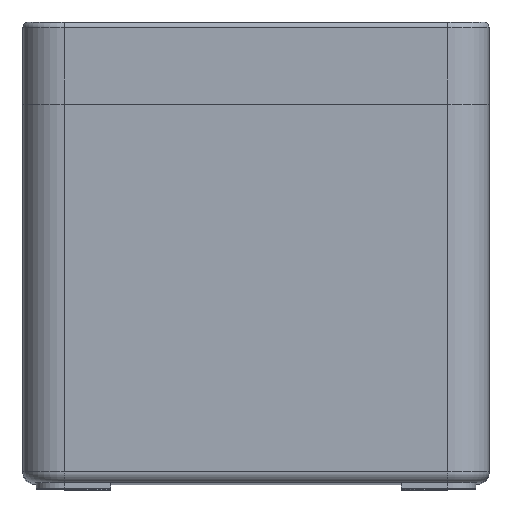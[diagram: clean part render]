
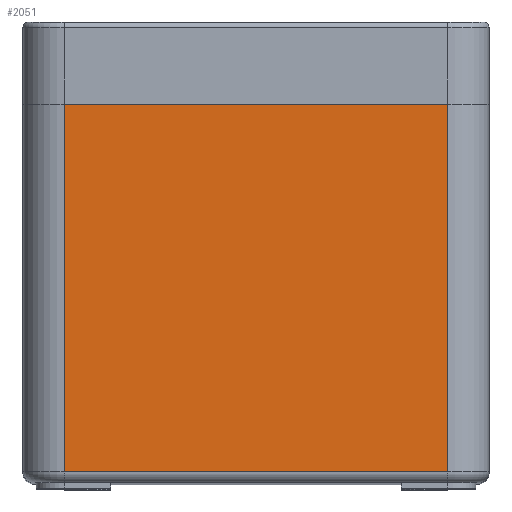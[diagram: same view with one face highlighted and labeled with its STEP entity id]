
A CAD part, top view. The second image highlights one B-rep face of the part: STEP entity #2051.
In plain terms, the highlighted planar face has unit normal (0, 0, 1).
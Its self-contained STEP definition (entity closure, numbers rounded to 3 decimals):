
#180 = DIRECTION ( 'NONE',  ( 0., 1., 0. ) ) ;
#581 = CARTESIAN_POINT ( 'NONE',  ( -35., 0., 100. ) ) ;
#1354 = CARTESIAN_POINT ( 'NONE',  ( -35., -69., 100. ) ) ;
#1649 = VECTOR ( 'NONE', #13886, 1000. ) ;
#2051 = ADVANCED_FACE ( 'NONE', ( #9320 ), #19506, .T. ) ;
#3469 = DIRECTION ( 'NONE',  ( 1., 0., 0. ) ) ;
#3753 = LINE ( 'NONE', #24683, #9367 ) ;
#4338 = CARTESIAN_POINT ( 'NONE',  ( -35., -69., 100. ) ) ;
#4372 = CARTESIAN_POINT ( 'NONE',  ( 35., -67., 100. ) ) ;
#4527 = CARTESIAN_POINT ( 'NONE',  ( 35., -67., 100. ) ) ;
#4547 = CARTESIAN_POINT ( 'NONE',  ( -35., -67., 100. ) ) ;
#5691 = EDGE_CURVE ( 'NONE', #12955, #16828, #17859, .T. ) ;
#6980 = EDGE_LOOP ( 'NONE', ( #22038, #7455, #14712, #20518 ) ) ;
#7455 = ORIENTED_EDGE ( 'NONE', *, *, #7678, .T. ) ;
#7678 = EDGE_CURVE ( 'NONE', #17538, #9936, #8424, .T. ) ;
#8160 = EDGE_CURVE ( 'NONE', #17538, #12955, #20426, .T. ) ;
#8424 = LINE ( 'NONE', #4372, #22937 ) ;
#9320 = FACE_OUTER_BOUND ( 'NONE', #6980, .T. ) ;
#9367 = VECTOR ( 'NONE', #14922, 1000. ) ;
#9369 = VECTOR ( 'NONE', #180, 1000. ) ;
#9936 = VERTEX_POINT ( 'NONE', #4527 ) ;
#9997 = AXIS2_PLACEMENT_3D ( 'NONE', #1354, #15652, #3469 ) ;
#11904 = CARTESIAN_POINT ( 'NONE',  ( -35., 0., 100. ) ) ;
#12955 = VERTEX_POINT ( 'NONE', #581 ) ;
#13886 = DIRECTION ( 'NONE',  ( 1., 0., 0. ) ) ;
#14621 = DIRECTION ( 'NONE',  ( 1., 0., 0. ) ) ;
#14712 = ORIENTED_EDGE ( 'NONE', *, *, #21327, .T. ) ;
#14922 = DIRECTION ( 'NONE',  ( 0., 1., 0. ) ) ;
#15652 = DIRECTION ( 'NONE',  ( 0., 0., 1. ) ) ;
#16828 = VERTEX_POINT ( 'NONE', #20618 ) ;
#17538 = VERTEX_POINT ( 'NONE', #4547 ) ;
#17859 = LINE ( 'NONE', #11904, #1649 ) ;
#19506 = PLANE ( 'NONE',  #9997 ) ;
#20426 = LINE ( 'NONE', #4338, #9369 ) ;
#20518 = ORIENTED_EDGE ( 'NONE', *, *, #5691, .F. ) ;
#20618 = CARTESIAN_POINT ( 'NONE',  ( 35., 0., 100. ) ) ;
#21327 = EDGE_CURVE ( 'NONE', #9936, #16828, #3753, .T. ) ;
#22038 = ORIENTED_EDGE ( 'NONE', *, *, #8160, .F. ) ;
#22937 = VECTOR ( 'NONE', #14621, 1000. ) ;
#24683 = CARTESIAN_POINT ( 'NONE',  ( 35., -69., 100. ) ) ;
